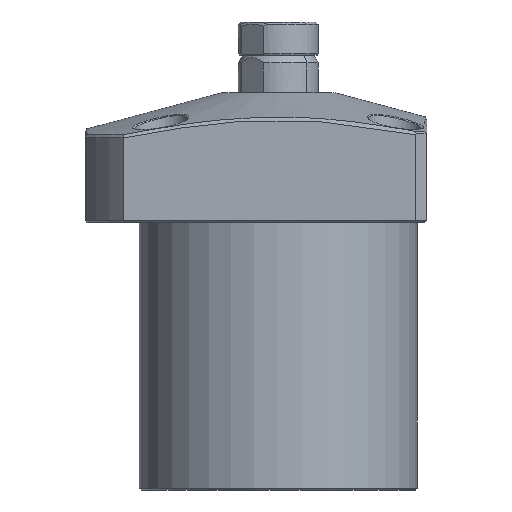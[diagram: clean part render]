
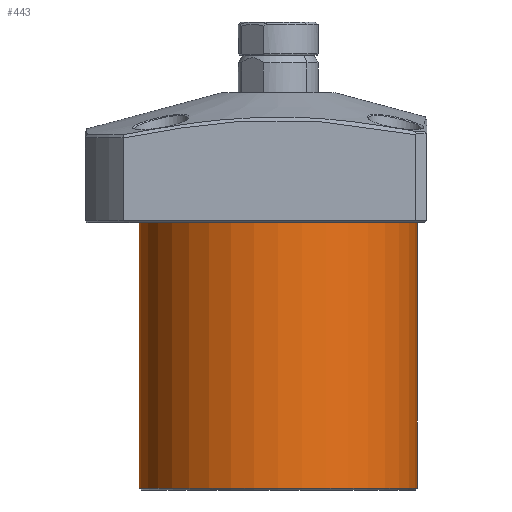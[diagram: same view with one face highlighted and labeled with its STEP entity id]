
A CAD part, front view. The second image highlights one B-rep face of the part: STEP entity #443.
In plain terms, the highlighted cylindrical face has radius 37.4 mm (diameter 74.8 mm), a partial arc.
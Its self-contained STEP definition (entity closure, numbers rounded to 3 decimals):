
#443 = ADVANCED_FACE ( 'NONE', ( #2976 ), #11902, .T. ) ;
#468 = AXIS2_PLACEMENT_3D ( 'NONE', #9781, #5736, #4771 ) ;
#1322 = CARTESIAN_POINT ( 'NONE',  ( 37.4, 0., 0.5 ) ) ;
#1770 = VERTEX_POINT ( 'NONE', #7677 ) ;
#2377 = EDGE_CURVE ( 'NONE', #8483, #8459, #3573, .T. ) ;
#2635 = ORIENTED_EDGE ( 'NONE', *, *, #4544, .T. ) ;
#2729 = CARTESIAN_POINT ( 'NONE',  ( -37.4, 0., 72. ) ) ;
#2976 = FACE_OUTER_BOUND ( 'NONE', #5135, .T. ) ;
#3445 = CARTESIAN_POINT ( 'NONE',  ( -37.4, 0., 72. ) ) ;
#3554 = AXIS2_PLACEMENT_3D ( 'NONE', #11656, #4855, #4072 ) ;
#3573 = CIRCLE ( 'NONE', #468, 37.4 ) ;
#3669 = LINE ( 'NONE', #5791, #11789 ) ;
#4020 = DIRECTION ( 'NONE',  ( 0., 0., 1. ) ) ;
#4072 = DIRECTION ( 'NONE',  ( -1., 0., 0. ) ) ;
#4289 = CARTESIAN_POINT ( 'NONE',  ( 37.4, 0., 72. ) ) ;
#4544 = EDGE_CURVE ( 'NONE', #1770, #8440, #5445, .T. ) ;
#4771 = DIRECTION ( 'NONE',  ( 1., 0., 0. ) ) ;
#4855 = DIRECTION ( 'NONE',  ( 0., 0., -1. ) ) ;
#5135 = EDGE_LOOP ( 'NONE', ( #7642, #10659, #11743, #2635 ) ) ;
#5381 = EDGE_CURVE ( 'NONE', #8459, #8440, #3669, .T. ) ;
#5445 = CIRCLE ( 'NONE', #9531, 37.4 ) ;
#5736 = DIRECTION ( 'NONE',  ( 0., 0., 1. ) ) ;
#5791 = CARTESIAN_POINT ( 'NONE',  ( 37.4, 0., 72. ) ) ;
#7169 = LINE ( 'NONE', #3445, #10142 ) ;
#7470 = DIRECTION ( 'NONE',  ( 0., 0., -1. ) ) ;
#7642 = ORIENTED_EDGE ( 'NONE', *, *, #5381, .F. ) ;
#7677 = CARTESIAN_POINT ( 'NONE',  ( -37.4, 0., 0.5 ) ) ;
#8440 = VERTEX_POINT ( 'NONE', #1322 ) ;
#8459 = VERTEX_POINT ( 'NONE', #4289 ) ;
#8483 = VERTEX_POINT ( 'NONE', #2729 ) ;
#8794 = EDGE_CURVE ( 'NONE', #8483, #1770, #7169, .T. ) ;
#9531 = AXIS2_PLACEMENT_3D ( 'NONE', #11019, #4020, #9925 ) ;
#9781 = CARTESIAN_POINT ( 'NONE',  ( 0., 0., 72. ) ) ;
#9925 = DIRECTION ( 'NONE',  ( 1., 0., 0. ) ) ;
#10142 = VECTOR ( 'NONE', #11149, 1000. ) ;
#10659 = ORIENTED_EDGE ( 'NONE', *, *, #2377, .F. ) ;
#11019 = CARTESIAN_POINT ( 'NONE',  ( 0., 0., 0.5 ) ) ;
#11149 = DIRECTION ( 'NONE',  ( 0., 0., -1. ) ) ;
#11656 = CARTESIAN_POINT ( 'NONE',  ( 0., 0., 72. ) ) ;
#11743 = ORIENTED_EDGE ( 'NONE', *, *, #8794, .T. ) ;
#11789 = VECTOR ( 'NONE', #7470, 1000. ) ;
#11902 = CYLINDRICAL_SURFACE ( 'NONE', #3554, 37.4 ) ;
